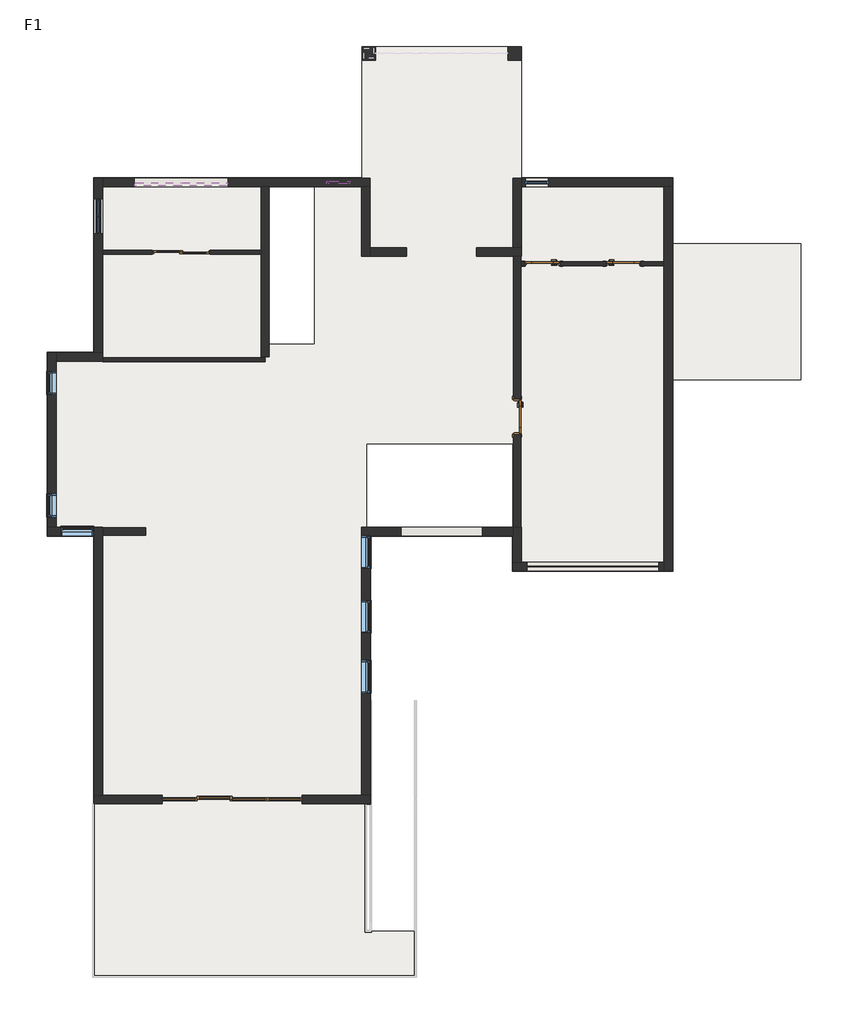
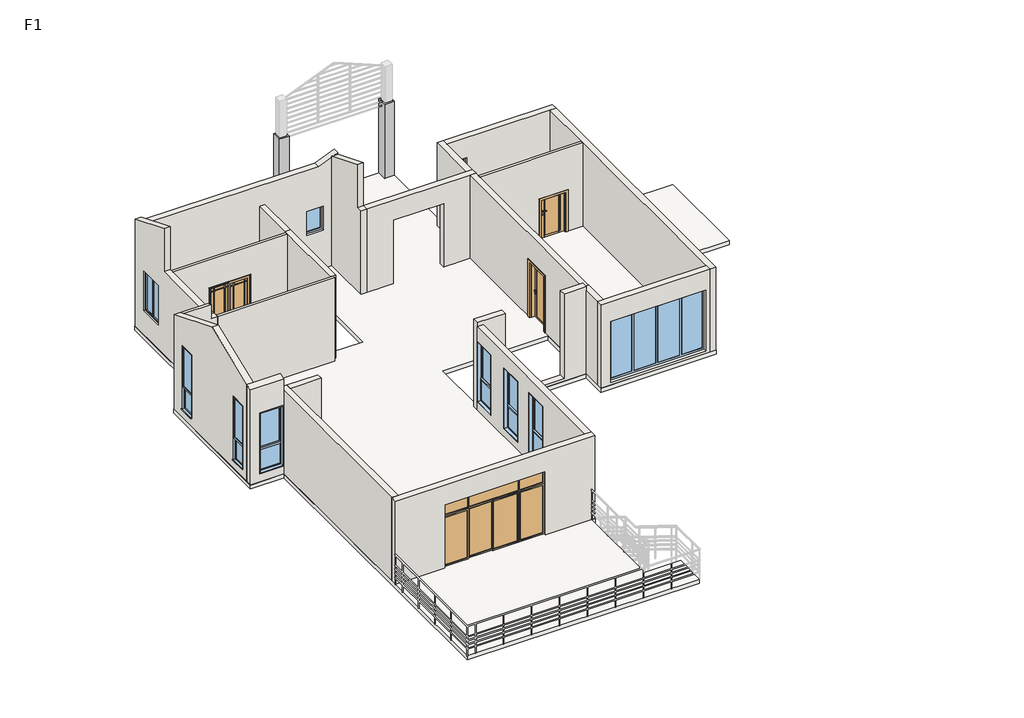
# One storey, part 1 of 4: 22 walls, 11 windows, 5 doors, 2 columns, 1 slab.
"""IFC4 building model written with IfcOpenShell, lengths in millimetres."""

from ifc_helpers import new_model, si_unit, frame, origin, origin_with_axes, place, context, project, spatial, polyline, outline, extrude, faceted_brep, transform, mapped, element, save
from components import door_0915_3157fd55, door_0915_0a5b4c04, door_1500_x_2100mm_4734d329, door_900_x_2100_mm_dda2772b, ym3627_ym3624_cbced519, window_d0687fa4, c0615_c0609_9743c050, c0615_c0615_013a5557, c0624_07807a0b, c0823_02c6a616, c0915_c0915_c0da6e5c, c3423_bdca7cff

model = new_model("IFC4")

# Units and contexts
model_context = context("Model", 3, world=origin())
ifc_project = project(units=[si_unit("LENGTHUNIT", "METRE", prefix="MILLI")], contexts=[model_context])

# Site, building, storey
site = spatial("IfcSite", under=ifc_project)
building = spatial("IfcBuilding", under=site)
storey = spatial("IfcBuildingStorey", under=building, Name="F1", Elevation=0.0)

# Columns
placement = place(None, origin())
element("IfcColumn", 1, ObjectType="矩形柱 : 350立柱", at=placement, inside=storey, context=model_context, shape_type="SweptSolid", body=[
    extrude(outline(polyline([(-9705.9782681, 3968.9713095), (-9705.9782681, 3618.9713095), (-10055.9782681, 3618.9713095), (-10055.9782681, 3968.9713095), (-9705.9782681, 3968.9713095)])), origin_with_axes(), (0.0, 0.0, 1.0), 2800.0),
])
element("IfcColumn", 2, ObjectType="矩形柱 : 350立柱", at=placement, inside=storey, context=model_context, shape_type="SweptSolid", body=[
    extrude(outline(polyline([(-5945.9782681, 3968.9713095), (-5945.9782681, 3618.9713095), (-6295.9782681, 3618.9713095), (-6295.9782681, 3968.9713095), (-5945.9782681, 3968.9713095)])), origin_with_axes(), (0.0, 0.0, 1.0), 2800.0),
])

# Doors
door_0915_shape = door_0915_3157fd55(model_context)
element("IfcDoor", 3, ObjectType="单扇平开门-木门 : 0915", at=placement, inside=storey, context=model_context, shape_type="MappedRepresentation", body=[
    mapped(door_0915_shape, transform((-3315.9782681, -1631.0286905, 0.0), x_axis=(1.0, 0.0, 0.0), y_axis=(0.0, 1.0, 0.0), z_axis=(0.0, 0.0, 1.0))),
])
door_0915_2_shape = door_0915_0a5b4c04(model_context)
element("IfcDoor", 4, ObjectType="单扇平开门-木门 : 0915", at=placement, inside=storey, context=model_context, shape_type="MappedRepresentation", body=[
    mapped(door_0915_2_shape, transform((-5405.9782681, -1631.0286905, 0.0), x_axis=(-1.0, 0.0, 0.0), y_axis=(0.0, -1.0, 0.0), z_axis=(0.0, 0.0, 1.0))),
])
door_1500_x_2100mm_shape = door_1500_x_2100mm_4734d329(model_context)
element("IfcDoor", 5, ObjectType="双扇推拉门 : 1500 x 2100mm", at=placement, inside=storey, context=model_context, shape_type="MappedRepresentation", body=[
    mapped(door_1500_x_2100mm_shape, transform((-14715.9782681, -1331.0286905, 0.0), x_axis=(-1.0, 0.0, 0.0), y_axis=(0.0, -1.0, 0.0), z_axis=(0.0, 0.0, 1.0))),
])
door_900_x_2100_mm_shape = door_900_x_2100_mm_dda2772b(model_context)
element("IfcDoor", 6, ObjectType="单扇平开门-木门 : 900 x 2100 mm", at=placement, inside=storey, context=model_context, shape_type="MappedRepresentation", body=[
    mapped(door_900_x_2100_mm_shape, transform((-6055.9782681, -5571.0286905, 0.0), x_axis=(0.0, -1.0, 0.0), y_axis=(1.0, 0.0, 0.0), z_axis=(0.0, 0.0, 1.0))),
])
ym3627_ym3624_shape = ym3627_ym3624_cbced519(model_context)
element("IfcDoor", 7, ObjectType="YM3627 : YM3624", at=placement, inside=storey, context=model_context, shape_type="MappedRepresentation", body=[
    mapped(ym3627_ym3624_shape, transform((-13405.9782681, -15431.0286905, 0.0), x_axis=(-1.0, 0.0, 0.0), y_axis=(0.0, -1.0, 0.0), z_axis=(0.0, 0.0, 1.0))),
])

# Slab
element("IfcSlab", 8, ObjectType="常规 - 150mm", at=placement, inside=storey, context=model_context, shape_type="SweptSolid", body=[
    extrude(outline(polyline([(-16975.9782681, 588.9713095), (-10055.9782681, 588.9713095), (-10055.9782681, 3968.9713095), (-5945.9782681, 3968.9713095), (-5945.9782681, 588.9713095), (-2035.9782681, 588.9713095), (-2035.9782681, -1118.8242174), (1264.0217319, -1118.8242174), (1264.0217319, -4618.8242174), (-2035.9782681, -4618.8242174), (-2035.9782681, -9551.0286905), (-6175.9782681, -9551.0286905), (-6175.9782681, -8651.0286905), (-9835.9782681, -8651.0286905), (-9835.9782681, -15551.0286905), (-9955.9782681, -15551.0286905), (-9955.9782681, -18831.0286905), (-8675.9782681, -18831.0286905), (-8675.9782681, -20001.0286905), (-16975.9782681, -20001.0286905), (-16975.9782681, -8651.0286905), (-18175.9782681, -8651.0286905), (-18175.9782681, -3911.0286905), (-16975.9782681, -3911.0286905), (-16975.9782681, 588.9713095)]), holes=[polyline([(-6175.9782681, -6281.0286905), (-9925.9782681, -6281.0286905), (-9925.9782681, -8411.0286905), (-6175.9782681, -8411.0286905), (-6175.9782681, -6281.0286905)]), polyline([(-12455.9782681, -3691.0286905), (-11291.3782681, -3691.0286905), (-11291.3782681, 358.9713095), (-12455.9782681, 358.9713095), (-12455.9782681, -3691.0286905)])]), frame((0.0, 0.0, -150.0), z_axis=(0.0, 0.0, 1.0), x_axis=(1.0, 0.0, 0.0)), (0.0, 0.0, 1.0), 150.0),
])

# Walls
element("IfcWall", 9, ObjectType="F1楼层", at=placement, inside=storey, context=model_context, shape_type="Brep", body=[
    faceted_brep([(-16965.9782681, -15321.0286905, 0.0), (-16965.9782681, -15321.0286905, 3150.0), (-16745.9782681, -15321.0286905, 3150.0), (-10065.9782681, -15321.0286905, 3150.0), (-9845.9782681, -15321.0286905, 3150.0), (-9845.9782681, -15321.0286905, 0.0), (-10065.9782681, -15321.0286905, 0.0), (-11605.9782681, -15321.0286905, 0.0), (-11605.9782681, -15321.0286905, 2400.0), (-15205.9782681, -15321.0286905, 2400.0), (-15205.9782681, -15321.0286905, 0.0), (-16745.9782681, -15321.0286905, 0.0), (-16965.9782681, -15541.0286905, 3150.0), (-16965.9782681, -15541.0286905, 0.0), (-15205.9782681, -15541.0286905, 0.0), (-15205.9782681, -15541.0286905, 2400.0), (-11605.9782681, -15541.0286905, 2400.0), (-11605.9782681, -15541.0286905, 0.0), (-9845.9782681, -15541.0286905, 0.0), (-9845.9782681, -15541.0286905, 3150.0)], [[[0, 1, 2, 3, 4, 5, 6, 7, 8, 9, 10, 11]], [[12, 13, 14, 15, 16, 17, 18, 19]], [[13, 0, 11, 10, 14]], [[5, 18, 17, 7, 6]], [[1, 0, 13, 12]], [[5, 4, 19, 18]], [[16, 8, 7, 17]], [[8, 16, 15, 9]], [[9, 15, 14, 10]], [[4, 3, 2, 1, 12, 19]]]),
])
element("IfcWall", 10, ObjectType="F1楼层", at=placement, inside=storey, context=model_context, shape_type="Brep", body=[
    faceted_brep([(-16745.9782681, -15321.0286905, 0.0), (-16745.9782681, -8631.0286905, 0.0), (-16745.9782681, -8431.0286905, 0.0), (-16745.9782681, -8421.0286905, 0.0), (-16745.9782681, -8421.0286905, 3150.0), (-16745.9782681, -8431.0286905, 3150.0), (-16745.9782681, -8631.0286905, 3150.0), (-16745.9782681, -15321.0286905, 3150.0), (-16965.9782681, -15321.0286905, 0.0), (-16965.9782681, -15321.0286905, 3150.0), (-16965.9782681, -8641.0286905, 3150.0), (-16965.9782681, -8421.0286905, 3150.0), (-16965.9782681, -8421.0286905, 0.0), (-16965.9782681, -8641.0286905, 0.0)], [[[0, 1, 2, 3, 4, 5, 6, 7]], [[8, 9, 10, 11, 12, 13]], [[3, 2, 1, 0, 8, 13, 12]], [[0, 7, 9, 8]], [[4, 3, 12, 11]], [[7, 6, 5, 4, 11, 10, 9]]]),
])
element("IfcWall", 11, ObjectType="F1楼层", at=placement, inside=storey, context=model_context, shape_type="Brep", body=[
    faceted_brep([(-16965.9782681, -8421.0286905, 0.0), (-17945.9782681, -8421.0286905, 0.0), (-18165.9782681, -8421.0286905, 0.0), (-18165.9782681, -8421.0286905, 3672.730361), (-17945.9782681, -8421.0286905, 3672.730361), (-16975.9782681, -8421.0286905, 3672.730361), (-16975.9782681, -8421.0286905, 3150.0), (-16965.9782681, -8421.0286905, 3150.0), (-16975.9782681, -8421.0286905, 2600.0), (-17825.9782681, -8421.0286905, 2600.0), (-17825.9782681, -8421.0286905, 300.0), (-16975.9782681, -8421.0286905, 300.0), (-16965.9782681, -8641.0286905, 0.0), (-16965.9782681, -8641.0286905, 3150.0), (-16975.9782681, -8641.0286905, 3150.0), (-16975.9782681, -8641.0286905, 3583.8445913), (-18165.9782681, -8641.0286905, 3583.8445913), (-18165.9782681, -8641.0286905, 0.0), (-16975.9782681, -8641.0286905, 2600.0), (-16975.9782681, -8641.0286905, 300.0), (-17825.9782681, -8641.0286905, 300.0), (-17825.9782681, -8641.0286905, 2600.0)], [[[0, 1, 2, 3, 4, 5, 6, 7], [8, 9, 10, 11]], [[12, 13, 14, 15, 16, 17], [18, 19, 20, 21]], [[2, 1, 0, 12, 17]], [[0, 7, 13, 12]], [[3, 2, 17, 16]], [[19, 18, 8, 11]], [[20, 19, 11, 10]], [[21, 20, 10, 9]], [[18, 21, 9, 8]], [[5, 15, 14, 6]], [[7, 6, 14, 13]], [[5, 4, 3, 16, 15]]]),
])
element("IfcWall", 12, ObjectType="F1楼层", at=placement, inside=storey, context=model_context, shape_type="Brep", body=[
    faceted_brep([(-17945.9782681, -8421.0286905, 0.0), (-17945.9782681, -4141.0286905, 0.0), (-17945.9782681, -3921.0286905, 0.0), (-17945.9782681, -3921.0286905, 3586.726154), (-17945.9782681, -4141.0286905, 3675.6119237), (-17945.9782681, -6277.4626315, 4538.7872656), (-17945.9782681, -8421.0286905, 3672.730361), (-17945.9782681, -4401.0286905, 2700.0), (-17945.9782681, -4401.0286905, 300.0), (-17945.9782681, -5001.0286905, 300.0), (-17945.9782681, -5001.0286905, 2700.0), (-17945.9782681, -7561.0286905, 2700.0), (-17945.9782681, -7561.0286905, 300.0), (-17945.9782681, -8161.0286905, 300.0), (-17945.9782681, -8161.0286905, 2700.0), (-18165.9782681, -8421.0286905, 0.0), (-18165.9782681, -8421.0286905, 3672.730361), (-18165.9782681, -6277.4626315, 4538.7872656), (-18165.9782681, -3921.0286905, 3586.726154), (-18165.9782681, -3921.0286905, 0.0), (-18165.9782681, -4401.0286905, 2700.0), (-18165.9782681, -5001.0286905, 2700.0), (-18165.9782681, -5001.0286905, 300.0), (-18165.9782681, -4401.0286905, 300.0), (-18165.9782681, -7561.0286905, 2700.0), (-18165.9782681, -8161.0286905, 2700.0), (-18165.9782681, -8161.0286905, 300.0), (-18165.9782681, -7561.0286905, 300.0)], [[[0, 1, 2, 3, 4, 5, 6], [7, 8, 9, 10], [11, 12, 13, 14]], [[15, 16, 17, 18, 19], [20, 21, 22, 23], [24, 25, 26, 27]], [[2, 1, 0, 15, 19]], [[0, 6, 16, 15]], [[3, 2, 19, 18]], [[8, 7, 20, 23]], [[9, 8, 23, 22]], [[10, 9, 22, 21]], [[7, 10, 21, 20]], [[12, 11, 24, 27]], [[13, 12, 27, 26]], [[14, 13, 26, 25]], [[11, 14, 25, 24]], [[6, 5, 17, 16]], [[5, 4, 3, 18, 17]]]),
])
element("IfcWall", 13, ObjectType="F1楼层", at=placement, inside=storey, context=model_context, shape_type="Brep", body=[
    faceted_brep([(-17945.9782681, -4141.0286905, 0.0), (-16745.9782681, -4141.0286905, 0.0), (-16745.9782681, -4141.0286905, 3150.0), (-16975.9782681, -4141.0286905, 3150.0), (-16975.9782681, -4141.0286905, 3675.6119237), (-17945.9782681, -4141.0286905, 3675.6119237), (-17945.9782681, -3921.0286905, 0.0), (-17945.9782681, -3921.0286905, 3586.726154), (-16975.9782681, -3921.0286905, 3586.726154), (-16975.9782681, -3921.0286905, 3150.0), (-16965.9782681, -3921.0286905, 3150.0), (-16745.9782681, -3921.0286905, 3150.0), (-16745.9782681, -3921.0286905, 0.0), (-16965.9782681, -3921.0286905, 0.0), (-16745.9782681, -4051.0286905, 0.0), (-16745.9782681, -4051.0286905, 3150.0)], [[[0, 1, 2, 3, 4, 5]], [[6, 7, 8, 9, 10, 11, 12, 13]], [[1, 0, 6, 13, 12, 14]], [[0, 5, 7, 6]], [[2, 1, 14, 12, 11, 15]], [[8, 4, 3, 9]], [[3, 2, 15, 11, 10, 9]], [[5, 4, 8, 7]]]),
])
element("IfcWall", 14, ObjectType="F1楼层", at=placement, inside=storey, context=model_context, shape_type="Brep", body=[
    faceted_brep([(-16745.9782681, -3921.0286905, 0.0), (-16745.9782681, -1381.0286905, 0.0), (-16745.9782681, -1281.0286905, 0.0), (-16745.9782681, 358.9713095, 0.0), (-16745.9782681, 578.9713095, 0.0), (-16745.9782681, 578.9713095, 3920.0), (-16745.9782681, 578.9713095, 4045.3843673), (-16745.9782681, -1221.0286905, 4772.6315738), (-16745.9782681, -1221.0286905, 3150.0), (-16745.9782681, -1281.0286905, 3150.0), (-16745.9782681, -1381.0286905, 3150.0), (-16745.9782681, -3921.0286905, 3150.0), (-16745.9782681, -851.0286905, 900.0), (-16745.9782681, -851.0286905, 2400.0), (-16745.9782681, 48.9713095, 2400.0), (-16745.9782681, 48.9713095, 900.0), (-16965.9782681, -3921.0286905, 0.0), (-16965.9782681, -3921.0286905, 3150.0), (-16965.9782681, -1221.0286905, 3150.0), (-16965.9782681, -1221.0286905, 4772.6315738), (-16965.9782681, 578.9713095, 4045.3843673), (-16965.9782681, 578.9713095, 0.0), (-16965.9782681, -851.0286905, 900.0), (-16965.9782681, 48.9713095, 900.0), (-16965.9782681, 48.9713095, 2400.0), (-16965.9782681, -851.0286905, 2400.0)], [[[0, 1, 2, 3, 4, 5, 6, 7, 8, 9, 10, 11], [12, 13, 14, 15]], [[16, 17, 18, 19, 20, 21], [22, 23, 24, 25]], [[4, 3, 2, 1, 0, 16, 21]], [[0, 11, 17, 16]], [[6, 5, 4, 21, 20]], [[13, 12, 22, 25]], [[14, 13, 25, 24]], [[15, 14, 24, 23]], [[12, 15, 23, 22]], [[7, 19, 18, 8]], [[11, 10, 9, 8, 18, 17]], [[7, 6, 20, 19]]]),
])
element("IfcWall", 15, ObjectType="F1楼层", at=placement, inside=storey, context=model_context, shape_type="Brep", body=[
    faceted_brep([(-16745.9782681, 358.9713095, 0.0), (-12655.9782681, 358.9713095, 0.0), (-12455.9782681, 358.9713095, 0.0), (-10065.9782681, 358.9713095, 0.0), (-9845.9782681, 358.9713095, 0.0), (-9845.9782681, 358.9713095, 4134.270137), (-9845.9782681, 358.9713095, 4204.4428848), (-10549.999113, 358.9713095, 3920.0), (-16745.9782681, 358.9713095, 3920.0), (-10965.9782681, 358.9713095, 1450.0), (-10965.9782681, 358.9713095, 2350.0), (-10365.9782681, 358.9713095, 2350.0), (-10365.9782681, 358.9713095, 1450.0), (-13515.9782681, 358.9713095, 1200.0), (-15915.9782681, 358.9713095, 1200.0), (-15915.9782681, 358.9713095, 1800.0), (-13515.9782681, 358.9713095, 1800.0), (-16745.9782681, 578.9713095, 0.0), (-16745.9782681, 578.9713095, 3920.0), (-10549.999113, 578.9713095, 3920.0), (-9845.9782681, 578.9713095, 4204.4428848), (-9845.9782681, 578.9713095, 0.0), (-10965.9782681, 578.9713095, 1450.0), (-10365.9782681, 578.9713095, 1450.0), (-10365.9782681, 578.9713095, 2350.0), (-10965.9782681, 578.9713095, 2350.0), (-13515.9782681, 578.9713095, 1200.0), (-13515.9782681, 578.9713095, 1800.0), (-15915.9782681, 578.9713095, 1800.0), (-15915.9782681, 578.9713095, 1200.0)], [[[0, 1, 2, 3, 4, 5, 6, 7, 8], [9, 10, 11, 12], [13, 14, 15, 16]], [[17, 18, 19, 20, 21], [22, 23, 24, 25], [26, 27, 28, 29]], [[0, 8, 18, 17]], [[6, 5, 4, 21, 20]], [[10, 9, 22, 25]], [[11, 10, 25, 24]], [[12, 11, 24, 23]], [[9, 12, 23, 22]], [[27, 26, 13, 16]], [[28, 27, 16, 15]], [[29, 28, 15, 14]], [[26, 29, 14, 13]], [[4, 3, 2, 1, 0, 17, 21]], [[8, 7, 19, 18]], [[7, 6, 20, 19]]]),
])
element("IfcWall", 16, ObjectType="F1楼层", at=placement, inside=storey, context=model_context, shape_type="Brep", body=[
    faceted_brep([(-10065.9782681, 358.9713095, 0.0), (-10065.9782681, -1441.0286905, 0.0), (-10065.9782681, -1441.0286905, 3150.0), (-10065.9782681, -1221.0286905, 3150.0), (-10065.9782681, -1221.0286905, 4772.6315738), (-10065.9782681, 358.9713095, 4134.270137), (-9845.9782681, 358.9713095, 0.0), (-9845.9782681, 358.9713095, 4134.270137), (-9845.9782681, -1221.0286905, 4772.6315738), (-9845.9782681, -1221.0286905, 3150.0), (-9845.9782681, -1441.0286905, 3150.0), (-9845.9782681, -1441.0286905, 0.0), (-9845.9782681, -1221.0286905, 0.0)], [[[0, 1, 2, 3, 4, 5]], [[6, 7, 8, 9, 10, 11, 12]], [[1, 0, 6, 12, 11]], [[0, 5, 7, 6]], [[2, 1, 11, 10]], [[8, 4, 3, 9]], [[3, 2, 10, 9]], [[5, 4, 8, 7]]]),
])
element("IfcWall", 17, ObjectType="F1楼层", at=placement, inside=storey, context=model_context, shape_type="Brep", body=[
    faceted_brep([(-9845.9782681, -1441.0286905, 3150.0), (-9845.9782681, -1441.0286905, 0.0), (-8905.9782681, -1441.0286905, 0.0), (-8905.9782681, -1441.0286905, 2400.0), (-7105.9782681, -1441.0286905, 2400.0), (-7105.9782681, -1441.0286905, 0.0), (-6155.9782681, -1441.0286905, 0.0), (-5955.9782681, -1441.0286905, 0.0), (-5945.9782681, -1441.0286905, 0.0), (-5945.9782681, -1441.0286905, 3150.0), (-5955.9782681, -1441.0286905, 3150.0), (-6155.9782681, -1441.0286905, 3150.0), (-9845.9782681, -1221.0286905, 0.0), (-9845.9782681, -1221.0286905, 3150.0), (-6175.9782681, -1221.0286905, 3150.0), (-6165.9782681, -1221.0286905, 3150.0), (-5945.9782681, -1221.0286905, 3150.0), (-5945.9782681, -1221.0286905, 0.0), (-6165.9782681, -1221.0286905, 0.0), (-7105.9782681, -1221.0286905, 0.0), (-7105.9782681, -1221.0286905, 2400.0), (-8905.9782681, -1221.0286905, 2400.0), (-8905.9782681, -1221.0286905, 0.0)], [[[0, 1, 2, 3, 4, 5, 6, 7, 8, 9, 10, 11]], [[12, 13, 14, 15, 16, 17, 18, 19, 20, 21, 22]], [[1, 12, 22, 2]], [[17, 8, 7, 6, 5, 19, 18]], [[1, 0, 13, 12]], [[9, 8, 17, 16]], [[4, 20, 19, 5]], [[20, 4, 3, 21]], [[21, 3, 2, 22]], [[13, 0, 11, 10, 9, 16, 15, 14]]]),
])
element("IfcWall", 18, ObjectType="F1楼层", at=placement, inside=storey, context=model_context, shape_type="Brep", body=[
    faceted_brep([(-5945.9782681, -1221.0286905, 0.0), (-5945.9782681, 358.9713095, 0.0), (-5945.9782681, 578.9713095, 0.0), (-5945.9782681, 578.9713095, 3150.0), (-5945.9782681, 358.9713095, 3150.0), (-5945.9782681, -1221.0286905, 3150.0), (-6165.9782681, -1221.0286905, 0.0), (-6165.9782681, -1221.0286905, 3150.0), (-6165.9782681, 578.9713095, 3150.0), (-6165.9782681, 578.9713095, 0.0)], [[[0, 1, 2, 3, 4, 5]], [[6, 7, 8, 9]], [[2, 1, 0, 6, 9]], [[0, 5, 7, 6]], [[3, 2, 9, 8]], [[5, 4, 3, 8, 7]]]),
])
element("IfcWall", 19, ObjectType="F1楼层", at=placement, inside=storey, context=model_context, shape_type="Brep", body=[
    faceted_brep([(-5945.9782681, 358.9713095, 0.0), (-2265.9782681, 358.9713095, 0.0), (-2045.9782681, 358.9713095, 0.0), (-2045.9782681, 358.9713095, 3150.0), (-2265.9782681, 358.9713095, 3150.0), (-5945.9782681, 358.9713095, 3150.0), (-5245.9782681, 358.9713095, 2400.0), (-5245.9782681, 358.9713095, 900.0), (-5845.9782681, 358.9713095, 900.0), (-5845.9782681, 358.9713095, 2400.0), (-2045.9782681, 578.9713095, 0.0), (-5945.9782681, 578.9713095, 0.0), (-5945.9782681, 578.9713095, 3150.0), (-2045.9782681, 578.9713095, 3150.0), (-5245.9782681, 578.9713095, 900.0), (-5245.9782681, 578.9713095, 2400.0), (-5845.9782681, 578.9713095, 2400.0), (-5845.9782681, 578.9713095, 900.0)], [[[0, 1, 2, 3, 4, 5], [6, 7, 8, 9]], [[10, 11, 12, 13], [14, 15, 16, 17]], [[2, 1, 0, 11, 10]], [[0, 5, 12, 11]], [[3, 2, 10, 13]], [[5, 4, 3, 13, 12]], [[14, 7, 6, 15]], [[16, 9, 8, 17]], [[7, 14, 17, 8]], [[9, 16, 15, 6]]]),
])
element("IfcWall", 20, ObjectType="F1楼层", at=placement, inside=storey, context=model_context, shape_type="Brep", body=[
    faceted_brep([(-2265.9782681, 358.9713095, 0.0), (-2265.9782681, -1581.0286905, 0.0), (-2265.9782681, -1681.0286905, 0.0), (-2265.9782681, -9321.0286905, 0.0), (-2265.9782681, -9541.0286905, 0.0), (-2265.9782681, -9541.0286905, 3150.0), (-2265.9782681, -9321.0286905, 3150.0), (-2265.9782681, -1681.0286905, 3150.0), (-2265.9782681, -1581.0286905, 3150.0), (-2265.9782681, 358.9713095, 3150.0), (-2045.9782681, 358.9713095, 0.0), (-2045.9782681, 358.9713095, 3150.0), (-2045.9782681, -9541.0286905, 3150.0), (-2045.9782681, -9541.0286905, 0.0)], [[[0, 1, 2, 3, 4, 5, 6, 7, 8, 9]], [[10, 11, 12, 13]], [[4, 3, 2, 1, 0, 10, 13]], [[0, 9, 11, 10]], [[5, 4, 13, 12]], [[9, 8, 7, 6, 5, 12, 11]]]),
])
element("IfcWall", 21, ObjectType="F1楼层", at=placement, inside=storey, context=model_context, shape_type="Brep", body=[
    faceted_brep([(-2265.9782681, -9321.0286905, 0.0), (-5945.9782681, -9321.0286905, 0.0), (-6165.9782681, -9321.0286905, 0.0), (-6165.9782681, -9321.0286905, 3150.0), (-5945.9782681, -9321.0286905, 3150.0), (-2265.9782681, -9321.0286905, 3150.0), (-5805.9782681, -9321.0286905, 2400.0), (-5805.9782681, -9321.0286905, 100.0), (-2405.9782681, -9321.0286905, 100.0), (-2405.9782681, -9321.0286905, 2400.0), (-6165.9782681, -9541.0286905, 0.0), (-2265.9782681, -9541.0286905, 0.0), (-2265.9782681, -9541.0286905, 3150.0), (-6165.9782681, -9541.0286905, 3150.0), (-5805.9782681, -9541.0286905, 100.0), (-5805.9782681, -9541.0286905, 2400.0), (-2405.9782681, -9541.0286905, 2400.0), (-2405.9782681, -9541.0286905, 100.0)], [[[0, 1, 2, 3, 4, 5], [6, 7, 8, 9]], [[10, 11, 12, 13], [14, 15, 16, 17]], [[2, 1, 0, 11, 10]], [[0, 5, 12, 11]], [[3, 2, 10, 13]], [[14, 7, 6, 15]], [[15, 6, 9, 16]], [[16, 9, 8, 17]], [[7, 14, 17, 8]], [[5, 4, 3, 13, 12]]]),
])
element("IfcWall", 22, ObjectType="F1楼层", at=placement, inside=storey, context=model_context, shape_type="Brep", body=[
    faceted_brep([(-5945.9782681, -9321.0286905, 0.0), (-5945.9782681, -8421.0286905, 0.0), (-5945.9782681, -8421.0286905, 3150.0), (-5945.9782681, -9321.0286905, 3150.0), (-6165.9782681, -9321.0286905, 0.0), (-6165.9782681, -9321.0286905, 3150.0), (-6165.9782681, -8421.0286905, 3150.0), (-6165.9782681, -8421.0286905, 0.0), (-6165.9782681, -8641.0286905, 0.0), (-6155.9782681, -8421.0286905, 0.0), (-5955.9782681, -8421.0286905, 0.0), (-6155.9782681, -8421.0286905, 3150.0), (-5955.9782681, -8421.0286905, 3150.0)], [[[0, 1, 2, 3]], [[4, 5, 6, 7, 8]], [[1, 0, 4, 8, 7, 9, 10]], [[0, 3, 5, 4]], [[2, 1, 10, 9, 7, 6, 11, 12]], [[3, 2, 12, 11, 6, 5]]]),
])
element("IfcWall", 23, ObjectType="F1楼层", at=placement, inside=storey, context=model_context, shape_type="Brep", body=[
    faceted_brep([(-6165.9782681, -8421.0286905, 0.0), (-10065.9782681, -8421.0286905, 0.0), (-10065.9782681, -8421.0286905, 3300.0), (-9055.9782681, -8421.0286905, 3300.0), (-9055.9782681, -8421.0286905, 100.0), (-6955.9782681, -8421.0286905, 100.0), (-6955.9782681, -8421.0286905, 3300.0), (-6165.9782681, -8421.0286905, 3300.0), (-6165.9782681, -8421.0286905, 3150.0), (-6165.9782681, -8641.0286905, 0.0), (-6165.9782681, -8641.0286905, 3300.0), (-6955.9782681, -8641.0286905, 3300.0), (-6955.9782681, -8641.0286905, 100.0), (-9055.9782681, -8641.0286905, 100.0), (-9055.9782681, -8641.0286905, 3300.0), (-10065.9782681, -8641.0286905, 3300.0), (-10065.9782681, -8641.0286905, 3150.0), (-10065.9782681, -8641.0286905, 2600.0), (-10065.9782681, -8641.0286905, 300.0), (-10065.9782681, -8641.0286905, 0.0), (-9845.9782681, -8641.0286905, 0.0)], [[[0, 1, 2, 3, 4, 5, 6, 7, 8]], [[9, 10, 11, 12, 13, 14, 15, 16, 17, 18, 19, 20]], [[0, 8, 7, 10, 9]], [[2, 1, 19, 18, 17, 16, 15]], [[1, 0, 9, 20, 19]], [[3, 2, 15, 14]], [[4, 3, 14, 13]], [[5, 4, 13, 12]], [[6, 5, 12, 11]], [[7, 6, 11, 10]]]),
])
element("IfcWall", 24, ObjectType="F1楼层", at=placement, inside=storey, context=model_context, shape_type="SweptSolid", body=[
    extrude(outline(polyline([(-8641.0286905, 3150.0), (-8641.0286905, 2600.0), (-9491.0286905, 2600.0), (-9491.0286905, 300.0), (-8641.0286905, 300.0), (-8641.0286905, 0.0), (-15321.0286905, 0.0), (-15321.0286905, 3150.0), (-8641.0286905, 3150.0)]), holes=[polyline([(-12701.0286905, 2600.0), (-12701.0286905, 300.0), (-11851.0286905, 300.0), (-11851.0286905, 2600.0), (-12701.0286905, 2600.0)]), polyline([(-11151.0286905, 2600.0), (-11151.0286905, 300.0), (-10301.0286905, 300.0), (-10301.0286905, 2600.0), (-11151.0286905, 2600.0)])]), frame((-10065.9782681, 0.0, 0.0), z_axis=(1.0, 0.0, 0.0), x_axis=(0.0, 1.0, 0.0)), (0.0, 0.0, 1.0), 220.0),
])
element("IfcWall", 25, ObjectType="常规 - 200mm", at=placement, inside=storey, context=model_context, shape_type="Brep", body=[
    faceted_brep([(-12655.9782681, 358.9713095, 0.0), (-12655.9782681, -1281.0286905, 0.0), (-12655.9782681, -1381.0286905, 0.0), (-12655.9782681, -4031.0286905, 0.0), (-12655.9782681, -4031.0286905, 3150.0), (-12655.9782681, -1381.0286905, 3150.0), (-12655.9782681, -1281.0286905, 3150.0), (-12655.9782681, -1221.0286905, 3150.0), (-12655.9782681, 358.9713095, 3150.0), (-12455.9782681, 358.9713095, 0.0), (-12455.9782681, 358.9713095, 3150.0), (-12455.9782681, -1221.0286905, 3150.0), (-12455.9782681, -4031.0286905, 3150.0), (-12455.9782681, -4031.0286905, 0.0)], [[[0, 1, 2, 3, 4, 5, 6, 7, 8]], [[9, 10, 11, 12, 13]], [[3, 2, 1, 0, 9, 13]], [[4, 3, 13, 12]], [[0, 8, 10, 9]], [[8, 7, 11, 10]], [[7, 6, 5, 4, 12, 11]]]),
])
element("IfcWall", 26, ObjectType="常规 - 200mm", at=placement, inside=storey, context=model_context, shape_type="SweptSolid", body=[
    extrude(outline(polyline([(-16745.9782681, -8431.0286905), (-15635.9782681, -8431.0286905), (-15635.9782681, -8631.0286905), (-16745.9782681, -8631.0286905), (-16745.9782681, -8431.0286905)])), origin_with_axes(), (0.0, 0.0, 1.0), 3150.0),
])
element("IfcWall", 27, ObjectType="常规 - 100mm 砌体", at=placement, inside=storey, context=model_context, shape_type="SweptSolid", body=[
    extrude(outline(polyline([(3150.0, -16745.9782681), (0.0, -16745.9782681), (0.0, -15465.9782681), (2100.0, -15465.9782681), (2100.0, -13965.9782681), (0.0, -13965.9782681), (0.0, -12655.9782681), (3150.0, -12655.9782681), (3150.0, -16745.9782681)])), frame((0.0, -1381.0286905, 0.0), z_axis=(0.0, 1.0, 0.0), x_axis=(0.0, 0.0, 1.0)), (0.0, 0.0, 1.0), 100.0),
])
element("IfcWall", 28, ObjectType="常规 - 100mm 砌体", at=placement, inside=storey, context=model_context, shape_type="Brep", body=[
    faceted_brep([(-16745.9782681, -4151.0286905, 0.0), (-12555.9782681, -4151.0286905, 0.0), (-12555.9782681, -4151.0286905, 3150.0), (-16745.9782681, -4151.0286905, 3150.0), (-16745.9782681, -4051.0286905, 0.0), (-16745.9782681, -4051.0286905, 3150.0), (-12555.9782681, -4051.0286905, 3150.0), (-12555.9782681, -4051.0286905, 0.0), (-16745.9782681, -4141.0286905, 0.0), (-16745.9782681, -4141.0286905, 3150.0)], [[[0, 1, 2, 3]], [[4, 5, 6, 7]], [[1, 0, 8, 4, 7]], [[2, 1, 7, 6]], [[0, 3, 9, 5, 4, 8]], [[3, 2, 6, 5, 9]]]),
])
element("IfcWall", 29, ObjectType="常规 - 200mm", at=placement, inside=storey, context=model_context, shape_type="Brep", body=[
    faceted_brep([(-6155.9782681, -1441.0286905, 3150.0), (-6155.9782681, -1441.0286905, 0.0), (-6155.9782681, -5121.0286905, 0.0), (-6155.9782681, -5121.0286905, 2100.0), (-6155.9782681, -6021.0286905, 2100.0), (-6155.9782681, -6021.0286905, 0.0), (-6155.9782681, -8421.0286905, 0.0), (-6155.9782681, -8421.0286905, 3150.0), (-5955.9782681, -1441.0286905, 0.0), (-5955.9782681, -1441.0286905, 3150.0), (-5955.9782681, -1581.0286905, 3150.0), (-5955.9782681, -1681.0286905, 3150.0), (-5955.9782681, -8421.0286905, 3150.0), (-5955.9782681, -8421.0286905, 0.0), (-5955.9782681, -6021.0286905, 0.0), (-5955.9782681, -6021.0286905, 2100.0), (-5955.9782681, -5121.0286905, 2100.0), (-5955.9782681, -5121.0286905, 0.0), (-5955.9782681, -1681.0286905, 0.0), (-5955.9782681, -1581.0286905, 0.0)], [[[0, 1, 2, 3, 4, 5, 6, 7]], [[8, 9, 10, 11, 12, 13, 14, 15, 16, 17, 18, 19]], [[1, 8, 19, 18, 17, 2]], [[13, 6, 5, 14]], [[1, 0, 9, 8]], [[7, 6, 13, 12]], [[4, 15, 14, 5]], [[15, 4, 3, 16]], [[16, 3, 2, 17]], [[7, 12, 11, 10, 9, 0]]]),
])
element("IfcWall", 30, ObjectType="常规 - 100mm 砌体", at=placement, inside=storey, context=model_context, shape_type="SweptSolid", body=[
    extrude(outline(polyline([(3150.0, -5955.9782681), (0.0, -5955.9782681), (0.0, -5855.9782681), (1500.0, -5855.9782681), (1500.0, -4955.9782681), (0.0, -4955.9782681), (0.0, -3765.9782681), (1500.0, -3765.9782681), (1500.0, -2865.9782681), (0.0, -2865.9782681), (0.0, -2265.9782681), (3150.0, -2265.9782681), (3150.0, -5955.9782681)])), frame((0.0, -1681.0286905, 0.0), z_axis=(0.0, 1.0, 0.0), x_axis=(0.0, 0.0, 1.0)), (0.0, 0.0, 1.0), 100.0),
])

# Windows
window_shape = window_d0687fa4(model_context)
element("IfcWindow", 31, ObjectType="固定窗-双扇 : 2400×600", at=placement, inside=storey, context=model_context, shape_type="MappedRepresentation", body=[
    mapped(window_shape, transform((-14715.9782681, 468.9713095, 400.0), x_axis=(-1.0, 0.0, 0.0), y_axis=(0.0, -1.0, 0.0), z_axis=(0.0, 0.0, 1.0))),
])
c0615_c0609_shape = c0615_c0609_9743c050(model_context)
element("IfcWindow", 32, ObjectType="C0615 : C0609", at=placement, inside=storey, context=model_context, shape_type="MappedRepresentation", body=[
    mapped(c0615_c0609_shape, transform((-10665.9782681, 468.9713095, 0.0), x_axis=(1.0, 0.0, 0.0), y_axis=(0.0, 1.0, 0.0), z_axis=(0.0, 0.0, 1.0))),
])
c0615_c0615_shape = c0615_c0615_013a5557(model_context)
element("IfcWindow", 33, ObjectType="C0615 : C0615", at=placement, inside=storey, context=model_context, shape_type="MappedRepresentation", body=[
    mapped(c0615_c0615_shape, transform((-5545.9782681, 468.9713095, -550.0), x_axis=(-1.0, 0.0, 0.0), y_axis=(0.0, -1.0, 0.0), z_axis=(0.0, 0.0, 1.0))),
])
c0624_shape = c0624_07807a0b(model_context)
element("IfcWindow", 34, ObjectType="上下拉窗1 : C0624", at=placement, inside=storey, context=model_context, shape_type="MappedRepresentation", body=[
    mapped(c0624_shape, transform((-18056.2167284, -4701.0286905, 0.0), x_axis=(0.0, 1.0, 0.0), y_axis=(-1.0, 0.0, 0.0), z_axis=(0.0, 0.0, 1.0))),
])
element("IfcWindow", 35, ObjectType="上下拉窗1 : C0624", at=placement, inside=storey, context=model_context, shape_type="MappedRepresentation", body=[
    mapped(c0624_shape, transform((-18056.2167284, -7861.0286905, 0.0), x_axis=(0.0, 1.0, 0.0), y_axis=(-1.0, 0.0, 0.0), z_axis=(0.0, 0.0, 1.0))),
])
c0823_shape = c0823_02c6a616(model_context)
element("IfcWindow", 36, ObjectType="上下拉窗1 : C0823", at=placement, inside=storey, context=model_context, shape_type="MappedRepresentation", body=[
    mapped(c0823_shape, transform((-17400.9782681, -8530.7902302, 0.0), x_axis=(1.0, 0.0, 0.0), y_axis=(0.0, 1.0, 0.0), z_axis=(0.0, 0.0, 1.0))),
])
element("IfcWindow", 37, ObjectType="上下拉窗1 : C0823", at=placement, inside=storey, context=model_context, shape_type="MappedRepresentation", body=[
    mapped(c0823_shape, transform((-9955.7398079, -12276.0286905, 0.0), x_axis=(0.0, -1.0, 0.0), y_axis=(1.0, 0.0, 0.0), z_axis=(0.0, 0.0, 1.0))),
])
element("IfcWindow", 38, ObjectType="上下拉窗1 : C0823", at=placement, inside=storey, context=model_context, shape_type="MappedRepresentation", body=[
    mapped(c0823_shape, transform((-9955.7398079, -10726.0286905, 0.0), x_axis=(0.0, -1.0, 0.0), y_axis=(1.0, 0.0, 0.0), z_axis=(0.0, 0.0, 1.0))),
])
element("IfcWindow", 39, ObjectType="上下拉窗1 : C0823", at=placement, inside=storey, context=model_context, shape_type="MappedRepresentation", body=[
    mapped(c0823_shape, transform((-9955.7398079, -9066.0286905, 0.0), x_axis=(0.0, -1.0, 0.0), y_axis=(1.0, 0.0, 0.0), z_axis=(0.0, 0.0, 1.0))),
])
c0915_c0915_shape = c0915_c0915_c0da6e5c(model_context)
element("IfcWindow", 40, ObjectType="C0915 : C0915", at=placement, inside=storey, context=model_context, shape_type="MappedRepresentation", body=[
    mapped(c0915_c0915_shape, transform((-16855.9782681, -401.0286905, 0.0), x_axis=(0.0, 1.0, 0.0), y_axis=(-1.0, 0.0, 0.0), z_axis=(0.0, 0.0, 1.0))),
])
c3423_shape = c3423_bdca7cff(model_context)
element("IfcWindow", 41, ObjectType="窗户 : C3423", at=placement, inside=storey, context=model_context, shape_type="MappedRepresentation", body=[
    mapped(c3423_shape, transform((-4105.9782681, -9431.0286905, -700.0), x_axis=(1.0, 0.0, 0.0), y_axis=(0.0, 1.0, 0.0), z_axis=(0.0, 0.0, 1.0))),
])

save(model, "model.ifc")
